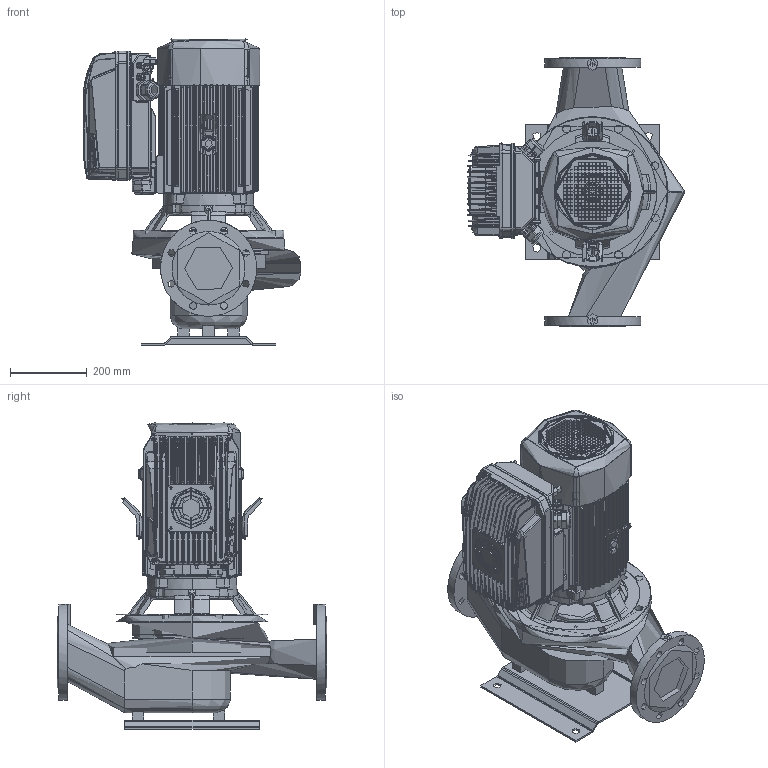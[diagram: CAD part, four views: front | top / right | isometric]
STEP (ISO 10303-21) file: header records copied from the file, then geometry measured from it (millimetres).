
FILE_DESCRIPTION(('STEP AP214'),'1');
FILE_NAME('export.stp','2022-09-07T07:26:22',(' '),(' '),'Spatial InterOp 3D',' ',' ');
FILE_SCHEMA(('AUTOMOTIVE_DESIGN { 1 0 10303 214 1 1 1 1 }'));
Length unit declared in the file: millimetre
Products named in the file (19): P100496; P100495; P100342; W_AL11294MDKP134; V_PPAL1129; V_MKP134-H2_F31; G35929; G23890; G35875; 24111; G24110_b; G43699; R200882; R200929; DIN_EN_24017-M10x20; R201240; Mida_414-418; V_TL110611291154
Assembly tree (20 placements, depth 4):
  W_AL11294MDKP134
    P100496
      P100495  x2
      P100342
    V_PPAL1129
    V_MKP134-H2_F31
      G35929
      G23890
      G35875
        24111
        G24110_b
      G43699
      R200882
      R200929
      R200929
      DIN_EN_24017-M10x20  x2
      R201240
    Mida_414-418
    V_TL110611291154
Bounding box: 566.2 x 700 x 796.88 mm (x, y, z)
Topology: 63 solids, 68 shells, 9016 faces, 23746 edges, 14749 vertices
Faces by surface type: plane 3262, cylinder 3084, bspline 1590, cone 593, torus 427, sphere 60
Entity records: 659506 total; most frequent: CARTESIAN_POINT 378108, ORIENTED_EDGE 46793, DIRECTION 37669, EDGE_CURVE 23406, VERTEX_POINT 14722, AXIS2_PLACEMENT_3D 13427, LINE 10815, VECTOR 10815
